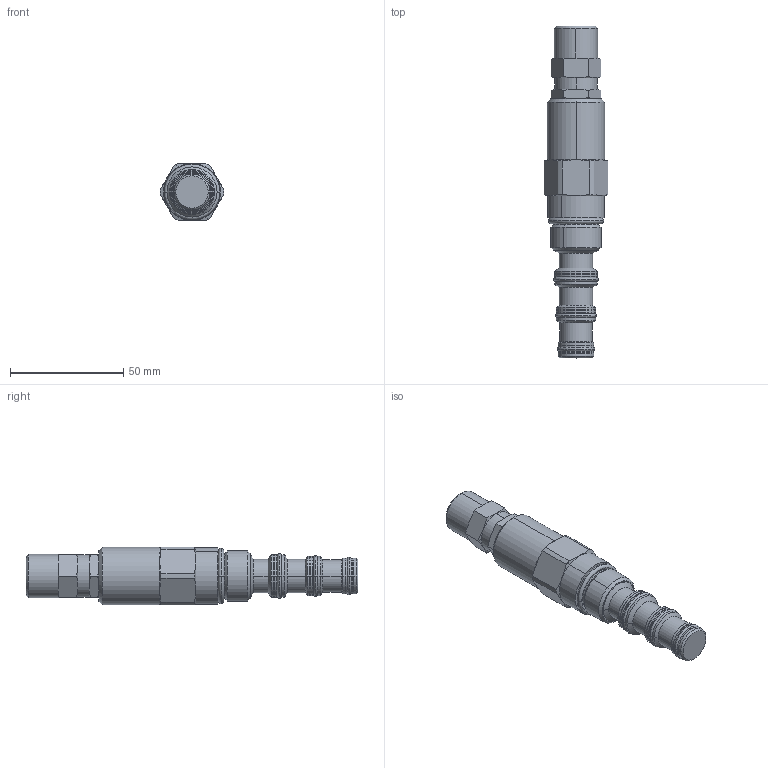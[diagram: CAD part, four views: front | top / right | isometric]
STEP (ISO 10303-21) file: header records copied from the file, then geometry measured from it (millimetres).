
FILE_DESCRIPTION((''),'2;1');
FILE_NAME('PRT0009','2009-03-24T',('JCS'),(''),'PRO/ENGINEER BY PARAMETRIC TECHNOLOGY CORPORATION, 2008510','PRO/ENGINEER BY PARAMETRIC TECHNOLOGY CORPORATION, 2008510','');
FILE_SCHEMA(('CONFIG_CONTROL_DESIGN'));
Length unit declared in the file: inch
Products named in the file (1): PRT0009
Bounding box: 28.19 x 146.79 x 25.4 mm (x, y, z)
Volume: 51591.2 mm3; surface area: 13496.3 mm2
Topology: 5 solids, 5 shells, 210 faces, 444 edges, 254 vertices
Faces by surface type: cylinder 56, cone 50, plane 38, torus 34, revolution 32
Entity records: 6604 total; most frequent: CARTESIAN_POINT 2060, DIRECTION 988, ORIENTED_EDGE 888, EDGE_CURVE 444, AXIS2_PLACEMENT_3D 426, VERTEX_POINT 254, CIRCLE 248, EDGE_LOOP 228
